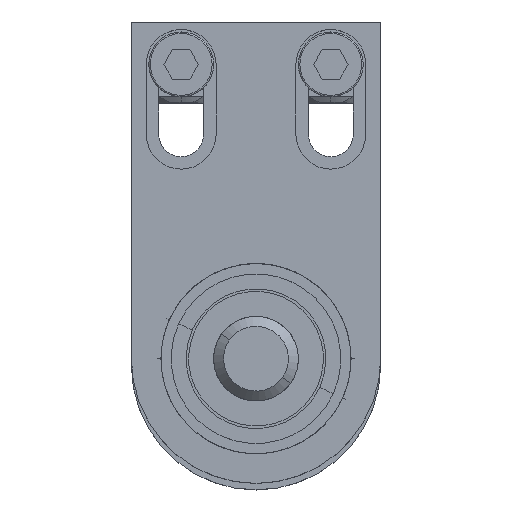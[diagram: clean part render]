
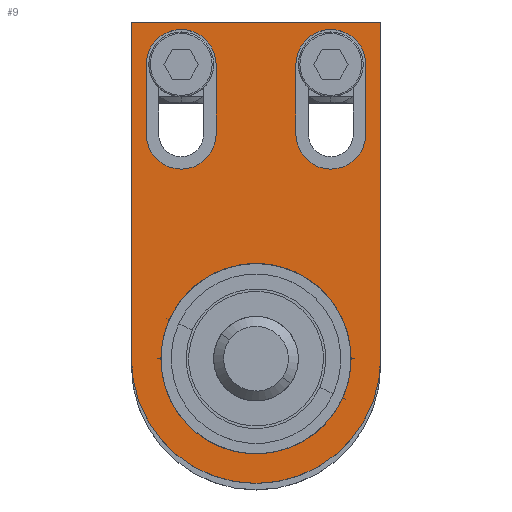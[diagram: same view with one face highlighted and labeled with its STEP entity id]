
A CAD part, top view. The second image highlights one B-rep face of the part: STEP entity #9.
In plain terms, the highlighted planar face has unit normal (0, 0, 1).
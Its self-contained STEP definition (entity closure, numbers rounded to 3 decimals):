
#9 = ADVANCED_FACE ( 'NONE', ( #3382, #2009, #3532, #4310 ), #2656, .T. ) ;
#34 = EDGE_CURVE ( 'NONE', #2007, #5909, #3172, .T. ) ;
#43 = LINE ( 'NONE', #3695, #4534 ) ;
#305 = CARTESIAN_POINT ( 'NONE',  ( 0., 0., 6. ) ) ;
#326 = CARTESIAN_POINT ( 'NONE',  ( 15., 45., 6. ) ) ;
#344 = EDGE_CURVE ( 'NONE', #466, #5393, #1222, .T. ) ;
#368 = AXIS2_PLACEMENT_3D ( 'NONE', #3274, #428, #4172 ) ;
#428 = DIRECTION ( 'NONE',  ( 0., 0., 1. ) ) ;
#440 = CARTESIAN_POINT ( 'NONE',  ( -8., 45., 6. ) ) ;
#447 = CIRCLE ( 'NONE', #4526, 7. ) ;
#466 = VERTEX_POINT ( 'NONE', #5443 ) ;
#510 = DIRECTION ( 'NONE',  ( 0., 0., 1. ) ) ;
#543 = ORIENTED_EDGE ( 'NONE', *, *, #34, .T. ) ;
#644 = EDGE_CURVE ( 'NONE', #1973, #3927, #43, .T. ) ;
#658 = CARTESIAN_POINT ( 'NONE',  ( -15., 59., 6. ) ) ;
#711 = LINE ( 'NONE', #3779, #2882 ) ;
#712 = CIRCLE ( 'NONE', #1796, 7. ) ;
#729 = CIRCLE ( 'NONE', #368, 25. ) ;
#764 = ORIENTED_EDGE ( 'NONE', *, *, #2565, .F. ) ;
#820 = VERTEX_POINT ( 'NONE', #1479 ) ;
#830 = EDGE_LOOP ( 'NONE', ( #4482, #4926 ) ) ;
#854 = CARTESIAN_POINT ( 'NONE',  ( 15., 59., 6. ) ) ;
#890 = CARTESIAN_POINT ( 'NONE',  ( 0., 0., 6. ) ) ;
#952 = AXIS2_PLACEMENT_3D ( 'NONE', #890, #1378, #2263 ) ;
#981 = EDGE_CURVE ( 'NONE', #1648, #2007, #4099, .T. ) ;
#990 = ORIENTED_EDGE ( 'NONE', *, *, #2811, .F. ) ;
#996 = CARTESIAN_POINT ( 'NONE',  ( -15., 45., 6. ) ) ;
#1073 = VECTOR ( 'NONE', #5818, 1000. ) ;
#1174 = LINE ( 'NONE', #2625, #5361 ) ;
#1175 = CARTESIAN_POINT ( 'NONE',  ( 25., 0., 6. ) ) ;
#1222 = CIRCLE ( 'NONE', #2405, 19.079 ) ;
#1237 = CARTESIAN_POINT ( 'NONE',  ( 22., 59., 6. ) ) ;
#1302 = DIRECTION ( 'NONE',  ( 1., 0., 0. ) ) ;
#1378 = DIRECTION ( 'NONE',  ( 0., 0., 1. ) ) ;
#1386 = DIRECTION ( 'NONE',  ( 1., 0., 0. ) ) ;
#1411 = CARTESIAN_POINT ( 'NONE',  ( -25., 67.5, 6. ) ) ;
#1412 = CARTESIAN_POINT ( 'NONE',  ( 22., 45., 6. ) ) ;
#1479 = CARTESIAN_POINT ( 'NONE',  ( 8., 45., 6. ) ) ;
#1632 = AXIS2_PLACEMENT_3D ( 'NONE', #854, #4097, #1386 ) ;
#1648 = VERTEX_POINT ( 'NONE', #1175 ) ;
#1677 = CARTESIAN_POINT ( 'NONE',  ( 22., 59., 6. ) ) ;
#1786 = CARTESIAN_POINT ( 'NONE',  ( 0., 0., 6. ) ) ;
#1796 = AXIS2_PLACEMENT_3D ( 'NONE', #996, #510, #2784 ) ;
#1973 = VERTEX_POINT ( 'NONE', #440 ) ;
#2007 = VERTEX_POINT ( 'NONE', #3336 ) ;
#2009 = FACE_BOUND ( 'NONE', #2700, .T. ) ;
#2065 = VERTEX_POINT ( 'NONE', #1677 ) ;
#2129 = EDGE_LOOP ( 'NONE', ( #3655, #3309, #543, #2249 ) ) ;
#2141 = CIRCLE ( 'NONE', #952, 19.079 ) ;
#2173 = CARTESIAN_POINT ( 'NONE',  ( 25., 67.5, 6. ) ) ;
#2207 = EDGE_CURVE ( 'NONE', #820, #2508, #4737, .T. ) ;
#2249 = ORIENTED_EDGE ( 'NONE', *, *, #4121, .T. ) ;
#2259 = LINE ( 'NONE', #3659, #2910 ) ;
#2263 = DIRECTION ( 'NONE',  ( 1., 0., 0. ) ) ;
#2357 = VERTEX_POINT ( 'NONE', #3162 ) ;
#2387 = EDGE_CURVE ( 'NONE', #5393, #466, #2141, .T. ) ;
#2405 = AXIS2_PLACEMENT_3D ( 'NONE', #305, #3023, #5341 ) ;
#2508 = VERTEX_POINT ( 'NONE', #1412 ) ;
#2565 = EDGE_CURVE ( 'NONE', #3290, #1973, #712, .T. ) ;
#2579 = CARTESIAN_POINT ( 'NONE',  ( -8., 59., 6. ) ) ;
#2625 = CARTESIAN_POINT ( 'NONE',  ( -25., 0., 6. ) ) ;
#2649 = CARTESIAN_POINT ( 'NONE',  ( -25., 0., 6. ) ) ;
#2656 = PLANE ( 'NONE',  #4574 ) ;
#2700 = EDGE_LOOP ( 'NONE', ( #3506, #3633, #764, #4456 ) ) ;
#2742 = CIRCLE ( 'NONE', #1632, 7. ) ;
#2754 = DIRECTION ( 'NONE',  ( 0., -1., 0. ) ) ;
#2784 = DIRECTION ( 'NONE',  ( 1., 0., 0. ) ) ;
#2800 = VERTEX_POINT ( 'NONE', #2649 ) ;
#2811 = EDGE_CURVE ( 'NONE', #2508, #2065, #3531, .T. ) ;
#2842 = ORIENTED_EDGE ( 'NONE', *, *, #5413, .F. ) ;
#2882 = VECTOR ( 'NONE', #4253, 1000. ) ;
#2910 = VECTOR ( 'NONE', #3686, 1000. ) ;
#3023 = DIRECTION ( 'NONE',  ( 0., 0., 1. ) ) ;
#3070 = VERTEX_POINT ( 'NONE', #3774 ) ;
#3162 = CARTESIAN_POINT ( 'NONE',  ( -22., 59., 6. ) ) ;
#3172 = LINE ( 'NONE', #2173, #3520 ) ;
#3226 = DIRECTION ( 'NONE',  ( 0., 1., 0. ) ) ;
#3274 = CARTESIAN_POINT ( 'NONE',  ( 0., 0., 6. ) ) ;
#3290 = VERTEX_POINT ( 'NONE', #4442 ) ;
#3309 = ORIENTED_EDGE ( 'NONE', *, *, #981, .T. ) ;
#3336 = CARTESIAN_POINT ( 'NONE',  ( 25., 67.5, 6. ) ) ;
#3382 = FACE_BOUND ( 'NONE', #5320, .T. ) ;
#3502 = EDGE_CURVE ( 'NONE', #2800, #1648, #729, .T. ) ;
#3506 = ORIENTED_EDGE ( 'NONE', *, *, #4444, .F. ) ;
#3513 = ORIENTED_EDGE ( 'NONE', *, *, #5773, .F. ) ;
#3520 = VECTOR ( 'NONE', #5895, 1000. ) ;
#3531 = LINE ( 'NONE', #1237, #1073 ) ;
#3532 = FACE_BOUND ( 'NONE', #830, .T. ) ;
#3551 = DIRECTION ( 'NONE',  ( 1., 0., 0. ) ) ;
#3633 = ORIENTED_EDGE ( 'NONE', *, *, #644, .F. ) ;
#3647 = DIRECTION ( 'NONE',  ( 0., 0., 1. ) ) ;
#3655 = ORIENTED_EDGE ( 'NONE', *, *, #3502, .T. ) ;
#3659 = CARTESIAN_POINT ( 'NONE',  ( 8., 59., 6. ) ) ;
#3686 = DIRECTION ( 'NONE',  ( 0., -1., 0. ) ) ;
#3695 = CARTESIAN_POINT ( 'NONE',  ( -8., 59., 6. ) ) ;
#3774 = CARTESIAN_POINT ( 'NONE',  ( 8., 59., 6. ) ) ;
#3779 = CARTESIAN_POINT ( 'NONE',  ( -22., 59., 6. ) ) ;
#3839 = AXIS2_PLACEMENT_3D ( 'NONE', #326, #5421, #3551 ) ;
#3927 = VERTEX_POINT ( 'NONE', #2579 ) ;
#4077 = CARTESIAN_POINT ( 'NONE',  ( 19.079, 0., 6. ) ) ;
#4080 = ORIENTED_EDGE ( 'NONE', *, *, #2207, .F. ) ;
#4097 = DIRECTION ( 'NONE',  ( 0., 0., 1. ) ) ;
#4099 = LINE ( 'NONE', #4828, #5120 ) ;
#4121 = EDGE_CURVE ( 'NONE', #5909, #2800, #1174, .T. ) ;
#4172 = DIRECTION ( 'NONE',  ( 1., 0., 0. ) ) ;
#4253 = DIRECTION ( 'NONE',  ( 0., -1., 0. ) ) ;
#4310 = FACE_OUTER_BOUND ( 'NONE', #2129, .T. ) ;
#4348 = DIRECTION ( 'NONE',  ( 1., 0., 0. ) ) ;
#4442 = CARTESIAN_POINT ( 'NONE',  ( -22., 45., 6. ) ) ;
#4444 = EDGE_CURVE ( 'NONE', #3927, #2357, #447, .T. ) ;
#4456 = ORIENTED_EDGE ( 'NONE', *, *, #6008, .F. ) ;
#4482 = ORIENTED_EDGE ( 'NONE', *, *, #344, .F. ) ;
#4526 = AXIS2_PLACEMENT_3D ( 'NONE', #658, #4792, #4348 ) ;
#4534 = VECTOR ( 'NONE', #3226, 1000. ) ;
#4574 = AXIS2_PLACEMENT_3D ( 'NONE', #1786, #3647, #1302 ) ;
#4737 = CIRCLE ( 'NONE', #3839, 7. ) ;
#4792 = DIRECTION ( 'NONE',  ( 0., 0., 1. ) ) ;
#4828 = CARTESIAN_POINT ( 'NONE',  ( 25., 0., 6. ) ) ;
#4926 = ORIENTED_EDGE ( 'NONE', *, *, #2387, .F. ) ;
#5120 = VECTOR ( 'NONE', #5760, 1000. ) ;
#5320 = EDGE_LOOP ( 'NONE', ( #3513, #990, #4080, #2842 ) ) ;
#5341 = DIRECTION ( 'NONE',  ( 1., 0., 0. ) ) ;
#5361 = VECTOR ( 'NONE', #2754, 1000. ) ;
#5393 = VERTEX_POINT ( 'NONE', #4077 ) ;
#5413 = EDGE_CURVE ( 'NONE', #3070, #820, #2259, .T. ) ;
#5421 = DIRECTION ( 'NONE',  ( 0., 0., 1. ) ) ;
#5443 = CARTESIAN_POINT ( 'NONE',  ( -19.079, 0., 6. ) ) ;
#5760 = DIRECTION ( 'NONE',  ( 0., 1., 0. ) ) ;
#5773 = EDGE_CURVE ( 'NONE', #2065, #3070, #2742, .T. ) ;
#5818 = DIRECTION ( 'NONE',  ( 0., 1., 0. ) ) ;
#5895 = DIRECTION ( 'NONE',  ( -1., 0., 0. ) ) ;
#5909 = VERTEX_POINT ( 'NONE', #1411 ) ;
#6008 = EDGE_CURVE ( 'NONE', #2357, #3290, #711, .T. ) ;
